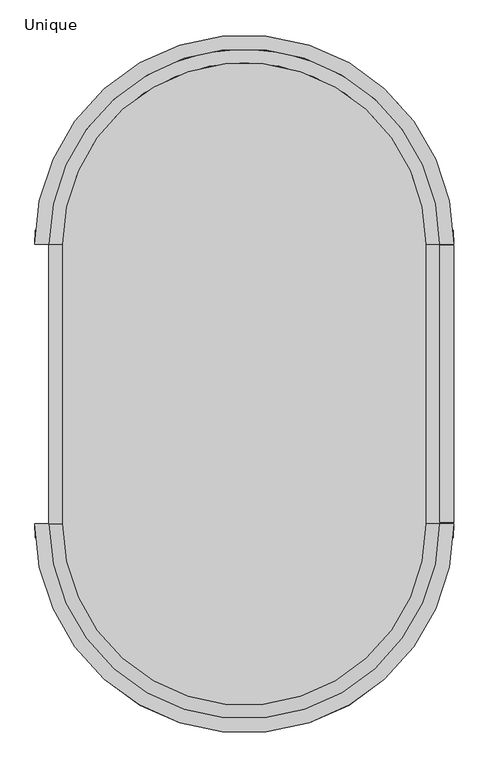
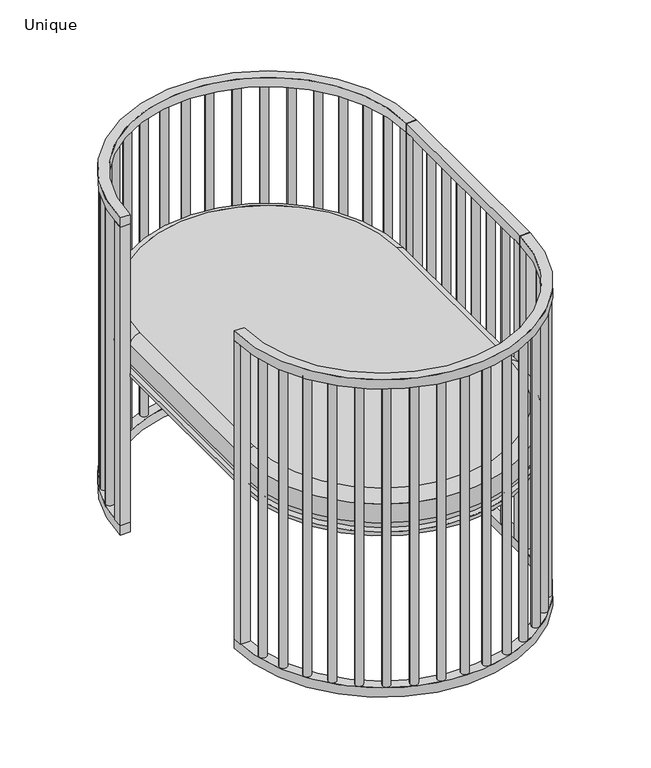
"""IFC4 building model written with IfcOpenShell, lengths in millimetres: furniture geometry, Sleepi Crib and Toddler Bed : Unique."""

from ifc_helpers import new_model, si_unit, point, frame, frame_2d, origin, origin_with_axes, place, context, project, spatial, polyline, circle_curve, ellipse_curve, trimmed, segment, composite_curve, outline, extrude, faceted_brep, source, transform, mapped, element, save
from ifc_brep_helpers import plane_surface, cylinder_surface, revolved_surface, advanced_brep


def unique_d5d73067(model_context):
    return source(origin(), model_context, "Body", "SolidModel", [
        extrude(outline(composite_curve([segment(trimmed(circle_curve(frame_2d((362.5134777, -97.7876923)), 10.0), [point((352.5134777, -97.7876923))], [point((372.5134777, -97.7876923))], False, "CARTESIAN"), True, "CONTINUOUS"), segment(trimmed(circle_curve(frame_2d((362.5134777, -97.7876923)), 10.0), [point((372.5134777, -97.7876923))], [point((352.5134777, -97.7876923))], False, "CARTESIAN"), True, "CONTINUOUS")], self_intersect=False)), frame((0.0, 0.0, 25.0), z_axis=(0.0, 0.0, 1.0), x_axis=(1.0, 0.0, 0.0)), (0.0, 0.0, 1.0), 800.0),
        extrude(outline(composite_curve([segment(trimmed(circle_curve(frame_2d((362.5269554, -32.585641)), 10.0), [point((352.5269554, -32.585641))], [point((372.5269554, -32.585641))], False, "CARTESIAN"), True, "CONTINUOUS"), segment(trimmed(circle_curve(frame_2d((362.5269554, -32.585641)), 10.0), [point((372.5269554, -32.585641))], [point((352.5269554, -32.585641))], False, "CARTESIAN"), True, "CONTINUOUS")], self_intersect=False)), frame((0.0, 0.0, 25.0), z_axis=(0.0, 0.0, 1.0), x_axis=(1.0, 0.0, 0.0)), (0.0, 0.0, 1.0), 800.0),
        extrude(outline(composite_curve([segment(trimmed(circle_curve(frame_2d((362.5404331, 32.6164103)), 10.0), [point((352.5404331, 32.6164103))], [point((372.5404331, 32.6164103))], False, "CARTESIAN"), True, "CONTINUOUS"), segment(trimmed(circle_curve(frame_2d((362.5404331, 32.6164103)), 10.0), [point((372.5404331, 32.6164103))], [point((352.5404331, 32.6164103))], False, "CARTESIAN"), True, "CONTINUOUS")], self_intersect=False)), frame((0.0, 0.0, 25.0), z_axis=(0.0, 0.0, 1.0), x_axis=(1.0, 0.0, 0.0)), (0.0, 0.0, 1.0), 800.0),
        extrude(outline(composite_curve([segment(trimmed(circle_curve(frame_2d((362.5539108, 97.8184615)), 10.0), [point((352.5539108, 97.8184615))], [point((372.5539108, 97.8184615))], False, "CARTESIAN"), True, "CONTINUOUS"), segment(trimmed(circle_curve(frame_2d((362.5539108, 97.8184615)), 10.0), [point((372.5539108, 97.8184615))], [point((352.5539108, 97.8184615))], False, "CARTESIAN"), True, "CONTINUOUS")], self_intersect=False)), frame((0.0, 0.0, 25.0), z_axis=(0.0, 0.0, 1.0), x_axis=(1.0, 0.0, 0.0)), (0.0, 0.0, 1.0), 800.0),
        extrude(outline(composite_curve([segment(trimmed(circle_curve(frame_2d((362.5, -162.9897436)), 10.0), [point((352.5, -162.9897436))], [point((372.5, -162.9897436))], False, "CARTESIAN"), True, "CONTINUOUS"), segment(trimmed(circle_curve(frame_2d((362.5, -162.9897436)), 10.0), [point((372.5, -162.9897436))], [point((352.5, -162.9897436))], False, "CARTESIAN"), True, "CONTINUOUS")], self_intersect=False)), frame((0.0, 0.0, 25.0), z_axis=(0.0, 0.0, 1.0), x_axis=(1.0, 0.0, 0.0)), (0.0, 0.0, 1.0), 800.0),
        extrude(outline(composite_curve([segment(trimmed(circle_curve(frame_2d((362.5673885, 163.0205128)), 10.0), [point((352.5673885, 163.0205128))], [point((372.5673885, 163.0205128))], False, "CARTESIAN"), True, "CONTINUOUS"), segment(trimmed(circle_curve(frame_2d((362.5673885, 163.0205128)), 10.0), [point((372.5673885, 163.0205128))], [point((352.5673885, 163.0205128))], False, "CARTESIAN"), True, "CONTINUOUS")], self_intersect=False)), frame((0.0, 0.0, 25.0), z_axis=(0.0, 0.0, 1.0), x_axis=(1.0, 0.0, 0.0)), (0.0, 0.0, 1.0), 800.0),
        extrude(outline(composite_curve([segment(trimmed(circle_curve(frame_2d((0.0, 250.0)), 350.0), [point((350.0, 250.0))], [point((-350.0, 250.0))], True, "CARTESIAN"), True, "CONTINUOUS"), segment(polyline([(-350.0, 250.0), (-375.0, 250.0)]), True, "CONTINUOUS"), segment(trimmed(circle_curve(frame_2d((0.0, 250.0)), 375.0), [point((-375.0, 250.0))], [point((375.0, 250.0))], False, "CARTESIAN"), True, "CONTINUOUS"), segment(polyline([(375.0, 250.0), (350.0, 250.0)]), True, "CONTINUOUS")], self_intersect=False)), origin_with_axes(), (0.0, 0.0, 1.0), 25.0),
        extrude(outline(composite_curve([segment(trimmed(circle_curve(frame_2d((0.0, -250.0)), 375.0), [point((375.0, -250.0))], [point((-375.0, -250.0))], False, "CARTESIAN"), True, "CONTINUOUS"), segment(polyline([(-375.0, -250.0), (-350.0, -250.0)]), True, "CONTINUOUS"), segment(trimmed(circle_curve(frame_2d((0.0, -250.0)), 350.0), [point((-350.0, -250.0))], [point((350.0, -250.0))], True, "CARTESIAN"), True, "CONTINUOUS"), segment(polyline([(350.0, -250.0), (375.0, -250.0)]), True, "CONTINUOUS")], self_intersect=False)), frame((0.0, 0.0, 825.0), z_axis=(0.0, 0.0, 1.0), x_axis=(1.0, 0.0, 0.0)), (0.0, 0.0, 1.0), 25.0),
        extrude(outline(composite_curve([segment(trimmed(circle_curve(frame_2d((0.0, 250.0)), 350.0), [point((350.0, 250.0))], [point((-350.0, 250.0))], True, "CARTESIAN"), True, "CONTINUOUS"), segment(polyline([(-350.0, 250.0), (-375.0, 250.0)]), True, "CONTINUOUS"), segment(trimmed(circle_curve(frame_2d((0.0, 250.0)), 375.0), [point((-375.0, 250.0))], [point((375.0, 250.0))], False, "CARTESIAN"), True, "CONTINUOUS"), segment(polyline([(375.0, 250.0), (350.0, 250.0)]), True, "CONTINUOUS")], self_intersect=False)), frame((0.0, 0.0, 825.0), z_axis=(0.0, 0.0, 1.0), x_axis=(1.0, 0.0, 0.0)), (0.0, 0.0, 1.0), 25.0),
        extrude(outline(composite_curve([segment(trimmed(circle_curve(frame_2d((-352.327299, 335.7287237)), 10.0), [point((-362.327299, 335.7287237))], [point((-342.327299, 335.7287237))], False, "CARTESIAN"), True, "CONTINUOUS"), segment(trimmed(circle_curve(frame_2d((-352.327299, 335.7287237)), 10.0), [point((-342.327299, 335.7287237))], [point((-362.327299, 335.7287237))], False, "CARTESIAN"), True, "CONTINUOUS")], self_intersect=False)), frame((0.0, 0.0, 25.0), z_axis=(0.0, 0.0, 1.0), x_axis=(1.0, 0.0, 0.0)), (0.0, 0.0, 1.0), 800.0),
        extrude(outline(composite_curve([segment(trimmed(circle_curve(frame_2d((-333.2737928, 392.623046)), 10.0), [point((-343.2737928, 392.623046))], [point((-323.2737928, 392.623046))], False, "CARTESIAN"), True, "CONTINUOUS"), segment(trimmed(circle_curve(frame_2d((-333.2737928, 392.623046)), 10.0), [point((-323.2737928, 392.623046))], [point((-343.2737928, 392.623046))], False, "CARTESIAN"), True, "CONTINUOUS")], self_intersect=False)), frame((0.0, 0.0, 25.0), z_axis=(0.0, 0.0, 1.0), x_axis=(1.0, 0.0, 0.0)), (0.0, 0.0, 1.0), 800.0),
        extrude(outline(composite_curve([segment(trimmed(circle_curve(frame_2d((-304.2172098, 447.2705307)), 10.0), [point((-314.2172098, 447.2705307))], [point((-294.2172098, 447.2705307))], False, "CARTESIAN"), True, "CONTINUOUS"), segment(trimmed(circle_curve(frame_2d((-304.2172098, 447.2705307)), 10.0), [point((-294.2172098, 447.2705307))], [point((-314.2172098, 447.2705307))], False, "CARTESIAN"), True, "CONTINUOUS")], self_intersect=False)), frame((0.0, 0.0, 25.0), z_axis=(0.0, 0.0, 1.0), x_axis=(1.0, 0.0, 0.0)), (0.0, 0.0, 1.0), 800.0),
        extrude(outline(composite_curve([segment(trimmed(circle_curve(frame_2d((-267.5655327, 494.7747891)), 10.0), [point((-277.5655327, 494.7747891))], [point((-257.5655327, 494.7747891))], False, "CARTESIAN"), True, "CONTINUOUS"), segment(trimmed(circle_curve(frame_2d((-267.5655327, 494.7747891)), 10.0), [point((-257.5655327, 494.7747891))], [point((-277.5655327, 494.7747891))], False, "CARTESIAN"), True, "CONTINUOUS")], self_intersect=False)), frame((0.0, 0.0, 25.0), z_axis=(0.0, 0.0, 1.0), x_axis=(1.0, 0.0, 0.0)), (0.0, 0.0, 1.0), 800.0),
        extrude(outline(composite_curve([segment(trimmed(circle_curve(frame_2d((-223.5102538, 535.5072382)), 10.0), [point((-233.5102538, 535.5072382))], [point((-213.5102538, 535.5072382))], False, "CARTESIAN"), True, "CONTINUOUS"), segment(trimmed(circle_curve(frame_2d((-223.5102538, 535.5072382)), 10.0), [point((-213.5102538, 535.5072382))], [point((-233.5102538, 535.5072382))], False, "CARTESIAN"), True, "CONTINUOUS")], self_intersect=False)), frame((0.0, 0.0, 25.0), z_axis=(0.0, 0.0, 1.0), x_axis=(1.0, 0.0, 0.0)), (0.0, 0.0, 1.0), 800.0),
        extrude(outline(composite_curve([segment(trimmed(circle_curve(frame_2d((-173.2844673, 568.3305587)), 10.0), [point((-183.2844673, 568.3305587))], [point((-163.2844673, 568.3305587))], False, "CARTESIAN"), True, "CONTINUOUS"), segment(trimmed(circle_curve(frame_2d((-173.2844673, 568.3305587)), 10.0), [point((-163.2844673, 568.3305587))], [point((-183.2844673, 568.3305587))], False, "CARTESIAN"), True, "CONTINUOUS")], self_intersect=False)), frame((0.0, 0.0, 25.0), z_axis=(0.0, 0.0, 1.0), x_axis=(1.0, 0.0, 0.0)), (0.0, 0.0, 1.0), 800.0),
        extrude(outline(composite_curve([segment(trimmed(circle_curve(frame_2d((-117.4224415, 592.9551286)), 10.0), [point((-127.4224415, 592.9551286))], [point((-107.4224415, 592.9551286))], False, "CARTESIAN"), True, "CONTINUOUS"), segment(trimmed(circle_curve(frame_2d((-117.4224415, 592.9551286)), 10.0), [point((-107.4224415, 592.9551286))], [point((-127.4224415, 592.9551286))], False, "CARTESIAN"), True, "CONTINUOUS")], self_intersect=False)), frame((0.0, 0.0, 25.0), z_axis=(0.0, 0.0, 1.0), x_axis=(1.0, 0.0, 0.0)), (0.0, 0.0, 1.0), 800.0),
        extrude(outline(composite_curve([segment(trimmed(circle_curve(frame_2d((-57.3298182, 607.9379024)), 10.0), [point((-67.3298182, 607.9379024))], [point((-47.3298182, 607.9379024))], False, "CARTESIAN"), True, "CONTINUOUS"), segment(trimmed(circle_curve(frame_2d((-57.3298182, 607.9379024)), 10.0), [point((-47.3298182, 607.9379024))], [point((-67.3298182, 607.9379024))], False, "CARTESIAN"), True, "CONTINUOUS")], self_intersect=False)), frame((0.0, 0.0, 25.0), z_axis=(0.0, 0.0, 1.0), x_axis=(1.0, 0.0, 0.0)), (0.0, 0.0, 1.0), 800.0),
        extrude(outline(composite_curve([segment(trimmed(circle_curve(frame_2d((0.0, 612.5)), 10.0), [point((-10.0, 612.5))], [point((10.0, 612.5))], False, "CARTESIAN"), True, "CONTINUOUS"), segment(trimmed(circle_curve(frame_2d((0.0, 612.5)), 10.0), [point((10.0, 612.5))], [point((-10.0, 612.5))], False, "CARTESIAN"), True, "CONTINUOUS")], self_intersect=False)), frame((0.0, 0.0, 25.0), z_axis=(0.0, 0.0, 1.0), x_axis=(1.0, 0.0, 0.0)), (0.0, 0.0, 1.0), 800.0),
        extrude(outline(composite_curve([segment(trimmed(circle_curve(frame_2d((352.327299, 335.7287237)), 10.0), [point((342.327299, 335.7287237))], [point((362.327299, 335.7287237))], False, "CARTESIAN"), True, "CONTINUOUS"), segment(trimmed(circle_curve(frame_2d((352.327299, 335.7287237)), 10.0), [point((362.327299, 335.7287237))], [point((342.327299, 335.7287237))], False, "CARTESIAN"), True, "CONTINUOUS")], self_intersect=False)), frame((0.0, 0.0, 25.0), z_axis=(0.0, 0.0, 1.0), x_axis=(1.0, 0.0, 0.0)), (0.0, 0.0, 1.0), 800.0),
        extrude(outline(composite_curve([segment(trimmed(circle_curve(frame_2d((333.2737928, 392.623046)), 10.0), [point((323.2737928, 392.623046))], [point((343.2737928, 392.623046))], False, "CARTESIAN"), True, "CONTINUOUS"), segment(trimmed(circle_curve(frame_2d((333.2737928, 392.623046)), 10.0), [point((343.2737928, 392.623046))], [point((323.2737928, 392.623046))], False, "CARTESIAN"), True, "CONTINUOUS")], self_intersect=False)), frame((0.0, 0.0, 25.0), z_axis=(0.0, 0.0, 1.0), x_axis=(1.0, 0.0, 0.0)), (0.0, 0.0, 1.0), 800.0),
        extrude(outline(composite_curve([segment(trimmed(circle_curve(frame_2d((304.2172098, 447.2705307)), 10.0), [point((294.2172098, 447.2705307))], [point((314.2172098, 447.2705307))], False, "CARTESIAN"), True, "CONTINUOUS"), segment(trimmed(circle_curve(frame_2d((304.2172098, 447.2705307)), 10.0), [point((314.2172098, 447.2705307))], [point((294.2172098, 447.2705307))], False, "CARTESIAN"), True, "CONTINUOUS")], self_intersect=False)), frame((0.0, 0.0, 25.0), z_axis=(0.0, 0.0, 1.0), x_axis=(1.0, 0.0, 0.0)), (0.0, 0.0, 1.0), 800.0),
        extrude(outline(composite_curve([segment(trimmed(circle_curve(frame_2d((267.5655327, 494.7747891)), 10.0), [point((257.5655327, 494.7747891))], [point((277.5655327, 494.7747891))], False, "CARTESIAN"), True, "CONTINUOUS"), segment(trimmed(circle_curve(frame_2d((267.5655327, 494.7747891)), 10.0), [point((277.5655327, 494.7747891))], [point((257.5655327, 494.7747891))], False, "CARTESIAN"), True, "CONTINUOUS")], self_intersect=False)), frame((0.0, 0.0, 25.0), z_axis=(0.0, 0.0, 1.0), x_axis=(1.0, 0.0, 0.0)), (0.0, 0.0, 1.0), 800.0),
        extrude(outline(composite_curve([segment(trimmed(circle_curve(frame_2d((223.5102538, 535.5072382)), 10.0), [point((213.5102538, 535.5072382))], [point((233.5102538, 535.5072382))], False, "CARTESIAN"), True, "CONTINUOUS"), segment(trimmed(circle_curve(frame_2d((223.5102538, 535.5072382)), 10.0), [point((233.5102538, 535.5072382))], [point((213.5102538, 535.5072382))], False, "CARTESIAN"), True, "CONTINUOUS")], self_intersect=False)), frame((0.0, 0.0, 25.0), z_axis=(0.0, 0.0, 1.0), x_axis=(1.0, 0.0, 0.0)), (0.0, 0.0, 1.0), 800.0),
        extrude(outline(composite_curve([segment(trimmed(circle_curve(frame_2d((173.2844673, 568.3305587)), 10.0), [point((163.2844673, 568.3305587))], [point((183.2844673, 568.3305587))], False, "CARTESIAN"), True, "CONTINUOUS"), segment(trimmed(circle_curve(frame_2d((173.2844673, 568.3305587)), 10.0), [point((183.2844673, 568.3305587))], [point((163.2844673, 568.3305587))], False, "CARTESIAN"), True, "CONTINUOUS")], self_intersect=False)), frame((0.0, 0.0, 25.0), z_axis=(0.0, 0.0, 1.0), x_axis=(1.0, 0.0, 0.0)), (0.0, 0.0, 1.0), 800.0),
        extrude(outline(composite_curve([segment(trimmed(circle_curve(frame_2d((117.4224415, 592.9551286)), 10.0), [point((107.4224415, 592.9551286))], [point((127.4224415, 592.9551286))], False, "CARTESIAN"), True, "CONTINUOUS"), segment(trimmed(circle_curve(frame_2d((117.4224415, 592.9551286)), 10.0), [point((127.4224415, 592.9551286))], [point((107.4224415, 592.9551286))], False, "CARTESIAN"), True, "CONTINUOUS")], self_intersect=False)), frame((0.0, 0.0, 25.0), z_axis=(0.0, 0.0, 1.0), x_axis=(1.0, 0.0, 0.0)), (0.0, 0.0, 1.0), 800.0),
        extrude(outline(composite_curve([segment(trimmed(circle_curve(frame_2d((57.3298182, 607.9379024)), 10.0), [point((47.3298182, 607.9379024))], [point((67.3298182, 607.9379024))], False, "CARTESIAN"), True, "CONTINUOUS"), segment(trimmed(circle_curve(frame_2d((57.3298182, 607.9379024)), 10.0), [point((67.3298182, 607.9379024))], [point((47.3298182, 607.9379024))], False, "CARTESIAN"), True, "CONTINUOUS")], self_intersect=False)), frame((0.0, 0.0, 25.0), z_axis=(0.0, 0.0, 1.0), x_axis=(1.0, 0.0, 0.0)), (0.0, 0.0, 1.0), 800.0),
        extrude(outline(composite_curve([segment(trimmed(circle_curve(frame_2d((-352.327299, -335.7287237)), 10.0), [point((-362.327299, -335.7287237))], [point((-342.327299, -335.7287237))], False, "CARTESIAN"), True, "CONTINUOUS"), segment(trimmed(circle_curve(frame_2d((-352.327299, -335.7287237)), 10.0), [point((-342.327299, -335.7287237))], [point((-362.327299, -335.7287237))], False, "CARTESIAN"), True, "CONTINUOUS")], self_intersect=False)), frame((0.0, 0.0, 25.0), z_axis=(0.0, 0.0, 1.0), x_axis=(1.0, 0.0, 0.0)), (0.0, 0.0, 1.0), 800.0),
        extrude(outline(composite_curve([segment(trimmed(circle_curve(frame_2d((-333.2737928, -392.623046)), 10.0), [point((-343.2737928, -392.623046))], [point((-323.2737928, -392.623046))], False, "CARTESIAN"), True, "CONTINUOUS"), segment(trimmed(circle_curve(frame_2d((-333.2737928, -392.623046)), 10.0), [point((-323.2737928, -392.623046))], [point((-343.2737928, -392.623046))], False, "CARTESIAN"), True, "CONTINUOUS")], self_intersect=False)), frame((0.0, 0.0, 25.0), z_axis=(0.0, 0.0, 1.0), x_axis=(1.0, 0.0, 0.0)), (0.0, 0.0, 1.0), 800.0),
        extrude(outline(composite_curve([segment(trimmed(circle_curve(frame_2d((-304.2172098, -447.2705307)), 10.0), [point((-314.2172098, -447.2705307))], [point((-294.2172098, -447.2705307))], False, "CARTESIAN"), True, "CONTINUOUS"), segment(trimmed(circle_curve(frame_2d((-304.2172098, -447.2705307)), 10.0), [point((-294.2172098, -447.2705307))], [point((-314.2172098, -447.2705307))], False, "CARTESIAN"), True, "CONTINUOUS")], self_intersect=False)), frame((0.0, 0.0, 25.0), z_axis=(0.0, 0.0, 1.0), x_axis=(1.0, 0.0, 0.0)), (0.0, 0.0, 1.0), 800.0),
        extrude(outline(composite_curve([segment(trimmed(circle_curve(frame_2d((-267.5655327, -494.7747891)), 10.0), [point((-277.5655327, -494.7747891))], [point((-257.5655327, -494.7747891))], False, "CARTESIAN"), True, "CONTINUOUS"), segment(trimmed(circle_curve(frame_2d((-267.5655327, -494.7747891)), 10.0), [point((-257.5655327, -494.7747891))], [point((-277.5655327, -494.7747891))], False, "CARTESIAN"), True, "CONTINUOUS")], self_intersect=False)), frame((0.0, 0.0, 25.0), z_axis=(0.0, 0.0, 1.0), x_axis=(1.0, 0.0, 0.0)), (0.0, 0.0, 1.0), 800.0),
        extrude(outline(composite_curve([segment(trimmed(circle_curve(frame_2d((-223.5102538, -535.5072382)), 10.0), [point((-233.5102538, -535.5072382))], [point((-213.5102538, -535.5072382))], False, "CARTESIAN"), True, "CONTINUOUS"), segment(trimmed(circle_curve(frame_2d((-223.5102538, -535.5072382)), 10.0), [point((-213.5102538, -535.5072382))], [point((-233.5102538, -535.5072382))], False, "CARTESIAN"), True, "CONTINUOUS")], self_intersect=False)), frame((0.0, 0.0, 25.0), z_axis=(0.0, 0.0, 1.0), x_axis=(1.0, 0.0, 0.0)), (0.0, 0.0, 1.0), 800.0),
        extrude(outline(composite_curve([segment(trimmed(circle_curve(frame_2d((-173.2844673, -568.3305587)), 10.0), [point((-183.2844673, -568.3305587))], [point((-163.2844673, -568.3305587))], False, "CARTESIAN"), True, "CONTINUOUS"), segment(trimmed(circle_curve(frame_2d((-173.2844673, -568.3305587)), 10.0), [point((-163.2844673, -568.3305587))], [point((-183.2844673, -568.3305587))], False, "CARTESIAN"), True, "CONTINUOUS")], self_intersect=False)), frame((0.0, 0.0, 25.0), z_axis=(0.0, 0.0, 1.0), x_axis=(1.0, 0.0, 0.0)), (0.0, 0.0, 1.0), 800.0),
        extrude(outline(composite_curve([segment(trimmed(circle_curve(frame_2d((-117.4224415, -592.9551286)), 10.0), [point((-127.4224415, -592.9551286))], [point((-107.4224415, -592.9551286))], False, "CARTESIAN"), True, "CONTINUOUS"), segment(trimmed(circle_curve(frame_2d((-117.4224415, -592.9551286)), 10.0), [point((-107.4224415, -592.9551286))], [point((-127.4224415, -592.9551286))], False, "CARTESIAN"), True, "CONTINUOUS")], self_intersect=False)), frame((0.0, 0.0, 25.0), z_axis=(0.0, 0.0, 1.0), x_axis=(1.0, 0.0, 0.0)), (0.0, 0.0, 1.0), 800.0),
        extrude(outline(composite_curve([segment(trimmed(circle_curve(frame_2d((-57.3298182, -607.9379024)), 10.0), [point((-67.3298182, -607.9379024))], [point((-47.3298182, -607.9379024))], False, "CARTESIAN"), True, "CONTINUOUS"), segment(trimmed(circle_curve(frame_2d((-57.3298182, -607.9379024)), 10.0), [point((-47.3298182, -607.9379024))], [point((-67.3298182, -607.9379024))], False, "CARTESIAN"), True, "CONTINUOUS")], self_intersect=False)), frame((0.0, 0.0, 25.0), z_axis=(0.0, 0.0, 1.0), x_axis=(1.0, 0.0, 0.0)), (0.0, 0.0, 1.0), 800.0),
        extrude(outline(composite_curve([segment(trimmed(circle_curve(frame_2d((0.0, -612.5)), 10.0), [point((-10.0, -612.5))], [point((10.0, -612.5))], False, "CARTESIAN"), True, "CONTINUOUS"), segment(trimmed(circle_curve(frame_2d((0.0, -612.5)), 10.0), [point((10.0, -612.5))], [point((-10.0, -612.5))], False, "CARTESIAN"), True, "CONTINUOUS")], self_intersect=False)), frame((0.0, 0.0, 25.0), z_axis=(0.0, 0.0, 1.0), x_axis=(1.0, 0.0, 0.0)), (0.0, 0.0, 1.0), 800.0),
        extrude(outline(composite_curve([segment(trimmed(circle_curve(frame_2d((352.327299, -335.7287237)), 10.0), [point((342.327299, -335.7287237))], [point((362.327299, -335.7287237))], False, "CARTESIAN"), True, "CONTINUOUS"), segment(trimmed(circle_curve(frame_2d((352.327299, -335.7287237)), 10.0), [point((362.327299, -335.7287237))], [point((342.327299, -335.7287237))], False, "CARTESIAN"), True, "CONTINUOUS")], self_intersect=False)), frame((0.0, 0.0, 25.0), z_axis=(0.0, 0.0, 1.0), x_axis=(1.0, 0.0, 0.0)), (0.0, 0.0, 1.0), 800.0),
        extrude(outline(composite_curve([segment(trimmed(circle_curve(frame_2d((333.2737928, -392.623046)), 10.0), [point((323.2737928, -392.623046))], [point((343.2737928, -392.623046))], False, "CARTESIAN"), True, "CONTINUOUS"), segment(trimmed(circle_curve(frame_2d((333.2737928, -392.623046)), 10.0), [point((343.2737928, -392.623046))], [point((323.2737928, -392.623046))], False, "CARTESIAN"), True, "CONTINUOUS")], self_intersect=False)), frame((0.0, 0.0, 25.0), z_axis=(0.0, 0.0, 1.0), x_axis=(1.0, 0.0, 0.0)), (0.0, 0.0, 1.0), 800.0),
        extrude(outline(composite_curve([segment(trimmed(circle_curve(frame_2d((304.2172098, -447.2705307)), 10.0), [point((294.2172098, -447.2705307))], [point((314.2172098, -447.2705307))], False, "CARTESIAN"), True, "CONTINUOUS"), segment(trimmed(circle_curve(frame_2d((304.2172098, -447.2705307)), 10.0), [point((314.2172098, -447.2705307))], [point((294.2172098, -447.2705307))], False, "CARTESIAN"), True, "CONTINUOUS")], self_intersect=False)), frame((0.0, 0.0, 25.0), z_axis=(0.0, 0.0, 1.0), x_axis=(1.0, 0.0, 0.0)), (0.0, 0.0, 1.0), 800.0),
        extrude(outline(composite_curve([segment(trimmed(circle_curve(frame_2d((267.5655327, -494.7747891)), 10.0), [point((257.5655327, -494.7747891))], [point((277.5655327, -494.7747891))], False, "CARTESIAN"), True, "CONTINUOUS"), segment(trimmed(circle_curve(frame_2d((267.5655327, -494.7747891)), 10.0), [point((277.5655327, -494.7747891))], [point((257.5655327, -494.7747891))], False, "CARTESIAN"), True, "CONTINUOUS")], self_intersect=False)), frame((0.0, 0.0, 25.0), z_axis=(0.0, 0.0, 1.0), x_axis=(1.0, 0.0, 0.0)), (0.0, 0.0, 1.0), 800.0),
        extrude(outline(composite_curve([segment(trimmed(circle_curve(frame_2d((223.5102538, -535.5072382)), 10.0), [point((213.5102538, -535.5072382))], [point((233.5102538, -535.5072382))], False, "CARTESIAN"), True, "CONTINUOUS"), segment(trimmed(circle_curve(frame_2d((223.5102538, -535.5072382)), 10.0), [point((233.5102538, -535.5072382))], [point((213.5102538, -535.5072382))], False, "CARTESIAN"), True, "CONTINUOUS")], self_intersect=False)), frame((0.0, 0.0, 25.0), z_axis=(0.0, 0.0, 1.0), x_axis=(1.0, 0.0, 0.0)), (0.0, 0.0, 1.0), 800.0),
        extrude(outline(composite_curve([segment(trimmed(circle_curve(frame_2d((173.2844673, -568.3305587)), 10.0), [point((163.2844673, -568.3305587))], [point((183.2844673, -568.3305587))], False, "CARTESIAN"), True, "CONTINUOUS"), segment(trimmed(circle_curve(frame_2d((173.2844673, -568.3305587)), 10.0), [point((183.2844673, -568.3305587))], [point((163.2844673, -568.3305587))], False, "CARTESIAN"), True, "CONTINUOUS")], self_intersect=False)), frame((0.0, 0.0, 25.0), z_axis=(0.0, 0.0, 1.0), x_axis=(1.0, 0.0, 0.0)), (0.0, 0.0, 1.0), 800.0),
        extrude(outline(composite_curve([segment(trimmed(circle_curve(frame_2d((117.4224415, -592.9551286)), 10.0), [point((107.4224415, -592.9551286))], [point((127.4224415, -592.9551286))], False, "CARTESIAN"), True, "CONTINUOUS"), segment(trimmed(circle_curve(frame_2d((117.4224415, -592.9551286)), 10.0), [point((127.4224415, -592.9551286))], [point((107.4224415, -592.9551286))], False, "CARTESIAN"), True, "CONTINUOUS")], self_intersect=False)), frame((0.0, 0.0, 25.0), z_axis=(0.0, 0.0, 1.0), x_axis=(1.0, 0.0, 0.0)), (0.0, 0.0, 1.0), 800.0),
        extrude(outline(composite_curve([segment(trimmed(circle_curve(frame_2d((57.3298182, -607.9379024)), 10.0), [point((47.3298182, -607.9379024))], [point((67.3298182, -607.9379024))], False, "CARTESIAN"), True, "CONTINUOUS"), segment(trimmed(circle_curve(frame_2d((57.3298182, -607.9379024)), 10.0), [point((67.3298182, -607.9379024))], [point((47.3298182, -607.9379024))], False, "CARTESIAN"), True, "CONTINUOUS")], self_intersect=False)), frame((0.0, 0.0, 25.0), z_axis=(0.0, 0.0, 1.0), x_axis=(1.0, 0.0, 0.0)), (0.0, 0.0, 1.0), 800.0),
        extrude(outline(composite_curve([segment(trimmed(circle_curve(frame_2d((0.0, -250.0)), 350.0), [point((350.0, -250.0))], [point((-350.0, -250.0))], False, "CARTESIAN"), True, "CONTINUOUS"), segment(polyline([(-350.0, -250.0), (-350.0, 250.0)]), True, "CONTINUOUS"), segment(trimmed(circle_curve(frame_2d((0.0, 250.0)), 350.0), [point((-350.0, 250.0))], [point((350.0, 250.0))], False, "CARTESIAN"), True, "CONTINUOUS"), segment(polyline([(350.0, 250.0), (350.0, -250.0)]), True, "CONTINUOUS")], self_intersect=False)), frame((0.0, 0.0, 415.0), z_axis=(0.0, 0.0, 1.0), x_axis=(1.0, 0.0, 0.0)), (0.0, 0.0, 1.0), 10.0),
        advanced_brep(
        [(-375.0, 250.0, 825.0), (-350.0, 250.0, 825.0), (-349.1060011, 275.0, 825.0), (-374.1657387, 275.0, 825.0), (-375.0, 250.0, 25.0), (-374.1657387, 275.0, 25.0), (-349.1060011, 275.0, 25.0), (-350.0, 250.0, 25.0), (-350.0, 250.0, 425.0), (-350.0, 250.0, 450.0), (-350.0, 250.0, 500.0000319), (-350.0, 250.0, 525.0), (-349.1060011, 275.0, 425.0), (-349.1060011, 275.0, 450.0), (-349.1060011, 275.0, 500.0000317), (-349.1060011, 275.0, 525.0)],
        [
            (0, 1),
            (1, 2, circle_curve(frame((0.0, 250.0, 825.0), z_axis=(0.0, 0.0, -1.0), x_axis=(1.0, 0.0, 0.0)), 350.0)),
            (2, 3),
            (3, 0, circle_curve(frame((0.0, 250.0, 825.0), z_axis=(0.0, 0.0, 1.0), x_axis=(1.0, 0.0, 0.0)), 375.0)),
            (4, 5, circle_curve(frame((0.0, 250.0, 25.0), z_axis=(0.0, 0.0, -1.0), x_axis=(1.0, 0.0, 0.0)), 375.0)),
            (5, 6),
            (6, 7, circle_curve(frame((0.0, 250.0, 25.0), z_axis=(0.0, 0.0, 1.0), x_axis=(1.0, 0.0, 0.0)), 350.0)),
            (7, 4),
            (0, 4),
            (7, 8),
            (8, 9),
            (9, 10),
            (10, 11),
            (11, 1),
            (6, 12),
            (12, 13),
            (13, 14),
            (14, 15),
            (15, 2),
            (5, 3),
        ],
        [
            plane_surface(frame((-350.0, 250.0, 825.0), z_axis=(0.0, 0.0, 1.0), x_axis=(1.0, 0.0, 0.0))),
            plane_surface(frame((-350.0, 250.0, 25.0), z_axis=(0.0, 0.0, -1.0), x_axis=(-1.0, 0.0, 0.0))),
            plane_surface(frame((-375.0, 250.0, 825.0), z_axis=(0.0, -1.0, 0.0), x_axis=(0.0, 0.0, -1.0))),
            revolved_surface(polyline([(350.0, 250.0, 25.0), (350.0, 250.0, 825.0)]), (0.0, 250.0, 25.0), (0.0, 0.0, -1.0)),
            plane_surface(frame((-349.1060011, 275.0, 825.0), z_axis=(0.0, 1.0, 0.0), x_axis=(0.0, 0.0, -1.0))),
            cylinder_surface(frame((0.0, 250.0, 25.0), z_axis=(0.0, 0.0, 1.0), x_axis=(1.0, 0.0, 0.0)), 375.0),
        ],
        [
            (0, [[1, 2, 3, 4]]),
            (1, [[5, 6, 7, 8]]),
            (2, [[-1, 9, -8, 10, 11, 12, 13, 14]]),
            (3, [[-2, -14, -13, -12, -11, -10, -7, 15, 16, 17, 18, 19]]),
            (4, [[-3, -19, -18, -17, -16, -15, -6, 20]]),
            (5, [[-4, -20, -5, -9]]),
        ],
    ),
        advanced_brep(
        [(375.0, 250.0, 825.0), (374.1657387, 275.0, 825.0), (349.1060011, 275.0, 825.0), (350.0, 250.0, 825.0), (375.0, 250.0, 25.0), (350.0, 250.0, 25.0), (349.1060011, 275.0, 25.0), (374.1657387, 275.0, 25.0), (349.1060011, 275.0, 425.0), (349.1060011, 275.0, 450.0), (349.1060011, 275.0, 500.0000318), (349.1060011, 275.0, 525.0), (350.0, 250.0, 425.0), (350.0, 250.0, 450.0), (350.0, 250.0, 500.0000319), (350.0, 250.0, 525.0)],
        [
            (0, 1, circle_curve(frame((0.0, 250.0, 825.0), z_axis=(0.0, 0.0, 1.0), x_axis=(1.0, 0.0, 0.0)), 375.0)),
            (1, 2),
            (2, 3, circle_curve(frame((0.0, 250.0, 825.0), z_axis=(0.0, 0.0, -1.0), x_axis=(1.0, 0.0, 0.0)), 350.0)),
            (3, 0),
            (4, 5),
            (5, 6, circle_curve(frame((0.0, 250.0, 25.0), z_axis=(0.0, 0.0, 1.0), x_axis=(1.0, 0.0, 0.0)), 350.0)),
            (6, 7),
            (7, 4, circle_curve(frame((0.0, 250.0, 25.0), z_axis=(0.0, 0.0, -1.0), x_axis=(1.0, 0.0, 0.0)), 375.0)),
            (0, 4),
            (7, 1),
            (6, 8),
            (8, 9),
            (9, 10),
            (10, 11),
            (11, 2),
            (5, 12),
            (12, 13),
            (13, 14),
            (14, 15),
            (15, 3),
        ],
        [
            plane_surface(frame((-350.0, 250.0, 825.0), z_axis=(0.0, 0.0, 1.0), x_axis=(1.0, 0.0, 0.0))),
            plane_surface(frame((-350.0, 250.0, 25.0), z_axis=(0.0, 0.0, -1.0), x_axis=(-1.0, 0.0, 0.0))),
            cylinder_surface(frame((0.0, 250.0, 0.0), z_axis=(0.0, 0.0, 1.0), x_axis=(1.0, 0.0, 0.0)), 375.0),
            plane_surface(frame((374.1657387, 275.0, 825.0), z_axis=(0.0, 1.0, 0.0), x_axis=(0.0, 0.0, -1.0))),
            revolved_surface(polyline([(350.0, 250.0, 25.0), (350.0, 250.0, 825.0)]), (0.0, 250.0, 0.0), (0.0, 0.0, -1.0)),
            plane_surface(frame((350.0, 250.0, 825.0), z_axis=(0.0, -1.0, 0.0), x_axis=(0.0, 0.0, -1.0))),
        ],
        [
            (0, [[1, 2, 3, 4]]),
            (1, [[5, 6, 7, 8]]),
            (2, [[-1, 9, -8, 10]]),
            (3, [[-2, -10, -7, 11, 12, 13, 14, 15]]),
            (4, [[-3, -15, -14, -13, -12, -11, -6, 16, 17, 18, 19, 20]]),
            (5, [[-4, -20, -19, -18, -17, -16, -5, -9]]),
        ],
    ),
        faceted_brep([(375.0, 248.0, 825.0), (350.0, 248.0, 825.0), (350.0, 223.0, 825.0), (375.0, 223.0, 825.0), (375.0, 248.0, 25.0), (375.0, 223.0, 25.0), (350.0, 223.0, 25.0), (350.0, 248.0, 25.0), (350.0, 248.0, 425.0), (350.0, 248.0, 450.0), (350.0, 248.0, 500.0), (350.0, 248.0, 525.0), (350.0, 223.0, 425.0), (350.0, 223.0, 450.0), (350.0, 223.0, 500.0), (350.0, 223.0, 525.0)], [[[0, 1, 2, 3]], [[4, 5, 6, 7]], [[1, 0, 4, 7, 8, 9, 10, 11]], [[2, 1, 11, 10, 9, 8, 7, 6, 12, 13, 14, 15]], [[3, 2, 15, 14, 13, 12, 6, 5]], [[0, 3, 5, 4]]]),
        advanced_brep(
        [(-375.0, -250.0, 825.0), (-374.1657387, -275.0, 825.0), (-349.1060011, -275.0, 825.0), (-350.0, -250.0, 825.0), (-375.0, -250.0, 25.0), (-350.0, -250.0, 25.0), (-349.1060011, -275.0, 25.0), (-374.1657387, -275.0, 25.0), (-349.1060011, -275.0, 425.0), (-349.1060011, -275.0, 450.0), (-349.1060011, -275.0, 500.000032), (-349.1060011, -275.0, 525.0), (-350.0, -250.0, 425.0), (-350.0, -250.0, 450.0), (-350.0, -250.0, 500.0), (-350.0, -250.0, 525.0)],
        [
            (0, 1, circle_curve(frame((0.0, -250.0, 825.0), z_axis=(0.0, 0.0, 1.0), x_axis=(1.0, 0.0, 0.0)), 375.0)),
            (1, 2),
            (2, 3, circle_curve(frame((0.0, -250.0, 825.0), z_axis=(0.0, 0.0, -1.0), x_axis=(1.0, 0.0, 0.0)), 350.0)),
            (3, 0),
            (4, 5),
            (5, 6, circle_curve(frame((0.0, -250.0, 25.0), z_axis=(0.0, 0.0, 1.0), x_axis=(1.0, 0.0, 0.0)), 350.0)),
            (6, 7),
            (7, 4, circle_curve(frame((0.0, -250.0, 25.0), z_axis=(0.0, 0.0, -1.0), x_axis=(1.0, 0.0, 0.0)), 375.0)),
            (0, 4),
            (7, 1),
            (6, 8),
            (8, 9),
            (9, 10),
            (10, 11),
            (11, 2),
            (5, 12),
            (12, 13),
            (13, 14),
            (14, 15),
            (15, 3),
        ],
        [
            plane_surface(frame((-350.0, 250.0, 825.0), z_axis=(0.0, 0.0, 1.0), x_axis=(1.0, 0.0, 0.0))),
            plane_surface(frame((-350.0, 250.0, 25.0), z_axis=(0.0, 0.0, -1.0), x_axis=(-1.0, 0.0, 0.0))),
            cylinder_surface(frame((0.0, -250.0, 0.0), z_axis=(0.0, 0.0, 1.0), x_axis=(1.0, 0.0, 0.0)), 375.0),
            plane_surface(frame((-374.1657387, -275.0, 825.0), z_axis=(0.0, -1.0, 0.0), x_axis=(0.0, 0.0, -1.0))),
            revolved_surface(polyline([(350.0, -250.0, 25.0), (350.0, -250.0, 825.0)]), (0.0, -250.0, 0.0), (0.0, 0.0, -1.0)),
            plane_surface(frame((-350.0, -250.0, 825.0), z_axis=(0.0, 1.0, 0.0), x_axis=(0.0, 0.0, -1.0))),
        ],
        [
            (0, [[1, 2, 3, 4]]),
            (1, [[5, 6, 7, 8]]),
            (2, [[-1, 9, -8, 10]]),
            (3, [[-2, -10, -7, 11, 12, 13, 14, 15]]),
            (4, [[-3, -15, -14, -13, -12, -11, -6, 16, 17, 18, 19, 20]]),
            (5, [[-4, -20, -19, -18, -17, -16, -5, -9]]),
        ],
    ),
        advanced_brep(
        [(375.0, -250.0, 825.0), (350.0, -250.0, 825.0), (349.1060011, -275.0, 825.0), (374.1657387, -275.0, 825.0), (375.0, -250.0, 25.0), (374.1657387, -275.0, 25.0), (349.1060011, -275.0, 25.0), (350.0, -250.0, 25.0), (350.0, -250.0, 425.0), (350.0, -250.0, 450.0), (350.0, -250.0, 500.0000321), (350.0, -250.0, 525.0), (349.1060011, -275.0, 425.0), (349.1060011, -275.0, 450.0), (349.1060011, -275.0, 500.0000321), (349.1060011, -275.0, 525.0)],
        [
            (0, 1),
            (1, 2, circle_curve(frame((0.0, -250.0, 825.0), z_axis=(0.0, 0.0, -1.0), x_axis=(1.0, 0.0, 0.0)), 350.0)),
            (2, 3),
            (3, 0, circle_curve(frame((0.0, -250.0, 825.0), z_axis=(0.0, 0.0, 1.0), x_axis=(1.0, 0.0, 0.0)), 375.0)),
            (4, 5, circle_curve(frame((0.0, -250.0, 25.0), z_axis=(0.0, 0.0, -1.0), x_axis=(1.0, 0.0, 0.0)), 375.0)),
            (5, 6),
            (6, 7, circle_curve(frame((0.0, -250.0, 25.0), z_axis=(0.0, 0.0, 1.0), x_axis=(1.0, 0.0, 0.0)), 350.0)),
            (7, 4),
            (0, 4),
            (7, 8),
            (8, 9),
            (9, 10),
            (10, 11),
            (11, 1),
            (6, 12),
            (12, 13),
            (13, 14),
            (14, 15),
            (15, 2),
            (5, 3),
        ],
        [
            plane_surface(frame((-350.0, 250.0, 825.0), z_axis=(0.0, 0.0, 1.0), x_axis=(1.0, 0.0, 0.0))),
            plane_surface(frame((-350.0, 250.0, 25.0), z_axis=(0.0, 0.0, -1.0), x_axis=(-1.0, 0.0, 0.0))),
            plane_surface(frame((375.0, -250.0, 825.0), z_axis=(0.0, 1.0, 0.0), x_axis=(0.0, 0.0, -1.0))),
            revolved_surface(polyline([(350.0, -250.0, 25.0), (350.0, -250.0, 825.0)]), (0.0, -250.0, 0.0), (0.0, 0.0, -1.0)),
            plane_surface(frame((349.1060011, -275.0, 825.0), z_axis=(0.0, -1.0, 0.0), x_axis=(0.0, 0.0, -1.0))),
            cylinder_surface(frame((0.0, -250.0, 0.0), z_axis=(0.0, 0.0, 1.0), x_axis=(1.0, 0.0, 0.0)), 375.0),
        ],
        [
            (0, [[1, 2, 3, 4]]),
            (1, [[5, 6, 7, 8]]),
            (2, [[-1, 9, -8, 10, 11, 12, 13, 14]]),
            (3, [[-2, -14, -13, -12, -11, -10, -7, 15, 16, 17, 18, 19]]),
            (4, [[-3, -19, -18, -17, -16, -15, -6, 20]]),
            (5, [[-4, -20, -5, -9]]),
        ],
    ),
        faceted_brep([(375.0, -248.0, 825.0), (375.0, -223.0, 825.0), (350.0, -223.0, 825.0), (350.0, -248.0, 825.0), (375.0, -248.0, 25.0), (350.0, -248.0, 25.0), (350.0, -223.0, 25.0), (375.0, -223.0, 25.0), (350.0, -223.0, 425.0), (350.0, -223.0, 450.0), (350.0, -223.0, 500.0), (350.0, -223.0, 525.0), (350.0, -248.0, 425.0), (350.0, -248.0, 450.0), (350.0, -248.0, 500.0), (350.0, -248.0, 525.0)], [[[0, 1, 2, 3]], [[4, 5, 6, 7]], [[1, 0, 4, 7]], [[2, 1, 7, 6, 8, 9, 10, 11]], [[3, 2, 11, 10, 9, 8, 6, 5, 12, 13, 14, 15]], [[0, 3, 15, 14, 13, 12, 5, 4]]]),
        advanced_brep(
        [(325.0, 250.0, 525.0), (-325.0, 250.0, 525.0), (-325.0, -250.0, 525.0), (325.0, -250.0, 525.0), (-325.0, 250.0, 425.0), (325.0, 250.0, 425.0), (325.0, -250.0, 425.0), (-325.0, -250.0, 425.0), (350.0, 250.0, 500.0000282), (350.0, 250.0, 450.0), (-350.0, 250.0, 450.0), (-350.0, 250.0, 500.0000325), (-350.0, -250.0, 450.0), (-350.0, -250.0, 500.0), (350.0, -250.0, 450.0), (350.0, -250.0, 500.0000328)],
        [
            (0, 1, circle_curve(frame((0.0, 250.0, 525.0), z_axis=(0.0, 0.0, 1.0), x_axis=(1.0, 0.0, 0.0)), 325.0)),
            (1, 2),
            (2, 3, circle_curve(frame((0.0, -250.0, 525.0), z_axis=(0.0, 0.0, 1.0), x_axis=(-1.0, 0.0, 0.0)), 325.0)),
            (3, 0),
            (4, 5, circle_curve(frame((0.0, 250.0, 425.0), z_axis=(0.0, 0.0, -1.0), x_axis=(1.0, 0.0, 0.0)), 325.0)),
            (5, 6),
            (6, 7, circle_curve(frame((0.0, -250.0, 425.0), z_axis=(0.0, 0.0, -1.0), x_axis=(-1.0, 0.0, 0.0)), 325.0)),
            (7, 4),
            (8, 9),
            (9, 10, circle_curve(frame((0.0, 250.0, 450.0), z_axis=(0.0, 0.0, 1.0), x_axis=(1.0, 0.0, 0.0)), 350.0)),
            (10, 11),
            (11, 8, circle_curve(frame((0.0, 250.0, 500.0), z_axis=(0.0, 0.0, -1.0), x_axis=(1.0, 0.0, 0.0)), 350.0)),
            (10, 12),
            (12, 13),
            (13, 11),
            (12, 14, circle_curve(frame((0.0, -250.0, 450.0), z_axis=(0.0, 0.0, 1.0), x_axis=(1.0, 0.0, 0.0)), 350.0)),
            (14, 15),
            (15, 13, circle_curve(frame((0.0, -250.0, 500.0), z_axis=(0.0, 0.0, -1.0), x_axis=(1.0, 0.0, 0.0)), 350.0)),
            (8, 15),
            (14, 9),
            (11, 1, circle_curve(frame((-325.0, 250.0, 500.0), z_axis=(0.0, 1.0, 0.0), x_axis=(1.0, 0.0, 0.0)), 25.0)),
            (0, 8, circle_curve(frame((325.0, 250.0, 500.0), z_axis=(0.0, 1.0, 0.0), x_axis=(-1.0, 0.0, 0.0)), 25.0)),
            (4, 10, circle_curve(frame((-325.0, 250.0, 450.0), z_axis=(0.0, 1.0, 0.0), x_axis=(1.0, 0.0, 0.0)), 25.0)),
            (9, 5, circle_curve(frame((325.0, 250.0, 450.0), z_axis=(0.0, 1.0, 0.0), x_axis=(-1.0, 0.0, 0.0)), 25.0)),
            (13, 2, circle_curve(frame((-325.0, -250.0, 500.0), z_axis=(0.0, 1.0, 0.0), x_axis=(1.0, 0.0, 0.0)), 25.0)),
            (7, 12, circle_curve(frame((-325.0, -250.0, 450.0), z_axis=(0.0, 1.0, 0.0), x_axis=(1.0, 0.0, 0.0)), 25.0)),
            (15, 3, circle_curve(frame((325.0, -250.0, 500.0), z_axis=(0.0, -1.0, 0.0), x_axis=(-1.0, 0.0, 0.0)), 25.0)),
            (6, 14, circle_curve(frame((325.0, -250.0, 450.0), z_axis=(0.0, -1.0, 0.0), x_axis=(-1.0, 0.0, 0.0)), 25.0)),
        ],
        [
            plane_surface(frame((350.0, 250.0, 525.0), z_axis=(0.0, 0.0, 1.0), x_axis=(0.0, 1.0, 0.0))),
            plane_surface(frame((350.0, 250.0, 425.0), z_axis=(0.0, 0.0, -1.0), x_axis=(0.0, -1.0, 0.0))),
            cylinder_surface(frame((0.0, 250.0, 425.0), z_axis=(0.0, 0.0, 1.0), x_axis=(1.0, 0.0, 0.0)), 350.0),
            plane_surface(frame((-350.0, 250.0, 525.0), z_axis=(-1.0, 0.0, 0.0), x_axis=(0.0, 0.0, -1.0))),
            cylinder_surface(frame((0.0, -250.0, 425.0), z_axis=(0.0, 0.0, 1.0), x_axis=(1.0, 0.0, 0.0)), 350.0),
            plane_surface(frame((350.0, -250.0, 525.0), z_axis=(1.0, 0.0, 0.0), x_axis=(0.0, 0.0, -1.0))),
            revolved_surface(trimmed(ellipse_curve(frame((325.0, 250.0, 500.0), z_axis=(0.0, -1.0, 0.0), x_axis=(-1.0, 0.0, 0.0)), 25.0, 25.0), [point((350.0, 250.0, 500.0))], [point((325.0, 250.0, 525.0))], True, "CARTESIAN"), (0.0, 250.0, 525.0), (0.0, 0.0, 1.0)),
            revolved_surface(trimmed(ellipse_curve(frame((325.0, 250.0, 450.0), z_axis=(0.0, -1.0, 0.0), x_axis=(-1.0, 0.0, 0.0)), 25.0, 25.0), [point((325.0, 250.0, 425.0))], [point((350.0, 250.0, 450.0))], True, "CARTESIAN"), (0.0, 250.0, 525.0), (0.0, 0.0, 1.0)),
            cylinder_surface(frame((-325.0, 250.0, 500.0), z_axis=(0.0, -1.0, 0.0), x_axis=(1.0, 0.0, 0.0)), 25.0),
            cylinder_surface(frame((-325.0, 250.0, 450.0), z_axis=(0.0, -1.0, 0.0), x_axis=(1.0, 0.0, 0.0)), 25.0),
            revolved_surface(trimmed(ellipse_curve(frame((-325.0, -250.0, 500.0), z_axis=(0.0, 1.0, 0.0), x_axis=(1.0, 0.0, 0.0)), 25.0, 25.0), [point((-350.0, -250.0, 500.0))], [point((-325.0, -250.0, 525.0))], True, "CARTESIAN"), (0.0, -250.0, 525.0), (0.0, 0.0, 1.0)),
            revolved_surface(trimmed(ellipse_curve(frame((-325.0, -250.0, 450.0), z_axis=(0.0, 1.0, 0.0), x_axis=(1.0, 0.0, 0.0)), 25.0, 25.0), [point((-325.0, -250.0, 425.0))], [point((-350.0, -250.0, 450.0))], True, "CARTESIAN"), (0.0, -250.0, 525.0), (0.0, 0.0, 1.0)),
            cylinder_surface(frame((325.0, -250.0, 500.0), z_axis=(0.0, 1.0, 0.0), x_axis=(-1.0, 0.0, 0.0)), 25.0),
            cylinder_surface(frame((325.0, -250.0, 450.0), z_axis=(0.0, 1.0, 0.0), x_axis=(-1.0, 0.0, 0.0)), 25.0),
        ],
        [
            (0, [[1, 2, 3, 4]]),
            (1, [[5, 6, 7, 8]]),
            (2, [[9, 10, 11, 12]]),
            (3, [[-11, 13, 14, 15]]),
            (4, [[-14, 16, 17, 18]]),
            (5, [[-9, 19, -17, 20]]),
            (6, [[21, -1, 22, -12]]),
            (7, [[23, -10, 24, -5]]),
            (8, [[-21, -15, 25, -2]]),
            (9, [[-23, -8, 26, -13]]),
            (10, [[-25, -18, 27, -3]]),
            (11, [[-26, -7, 28, -16]]),
            (12, [[-22, -4, -27, -19]]),
            (13, [[-24, -20, -28, -6]]),
        ],
    ),
        extrude(outline(polyline([(375.0, 248.0), (375.0, -248.0), (350.0, -248.0), (350.0, 248.0), (375.0, 248.0)])), origin_with_axes(), (0.0, 0.0, 1.0), 25.0),
        extrude(outline(polyline([(375.0, 248.0), (375.0, -248.0), (350.0, -248.0), (350.0, 248.0), (375.0, 248.0)])), frame((0.0, 0.0, 825.0), z_axis=(0.0, 0.0, 1.0), x_axis=(1.0, 0.0, 0.0)), (0.0, 0.0, 1.0), 25.0),
        extrude(outline(composite_curve([segment(trimmed(circle_curve(frame_2d((0.0, -250.0)), 375.0), [point((375.0, -250.0))], [point((-375.0, -250.0))], False, "CARTESIAN"), True, "CONTINUOUS"), segment(polyline([(-375.0, -250.0), (-350.0, -250.0)]), True, "CONTINUOUS"), segment(trimmed(circle_curve(frame_2d((0.0, -250.0)), 350.0), [point((-350.0, -250.0))], [point((350.0, -250.0))], True, "CARTESIAN"), True, "CONTINUOUS"), segment(polyline([(350.0, -250.0), (375.0, -250.0)]), True, "CONTINUOUS")], self_intersect=False)), origin_with_axes(), (0.0, 0.0, 1.0), 25.0),
    ])


if __name__ == "__main__":
    model = new_model("IFC4")
    model_context = context("Model", 3, world=origin())
    ifc_project = project(units=[si_unit("LENGTHUNIT", "METRE", prefix="MILLI")], contexts=[model_context])
    site = spatial("IfcSite", under=ifc_project)
    building = spatial("IfcBuilding", under=site)
    placement = place(None, origin())
    unique_shape = unique_d5d73067(model_context)
    element("IfcFurniture", 1, ObjectType="Sleepi Crib and Toddler Bed : Unique", at=placement, inside=building, context=model_context, shape_type="MappedRepresentation", body=[
        mapped(unique_shape, transform((0.0, 0.0, 0.0), x_axis=(1.0, 0.0, 0.0), y_axis=(0.0, 1.0, 0.0), z_axis=(0.0, 0.0, 1.0))),
    ])
    save(model, "model.ifc")
